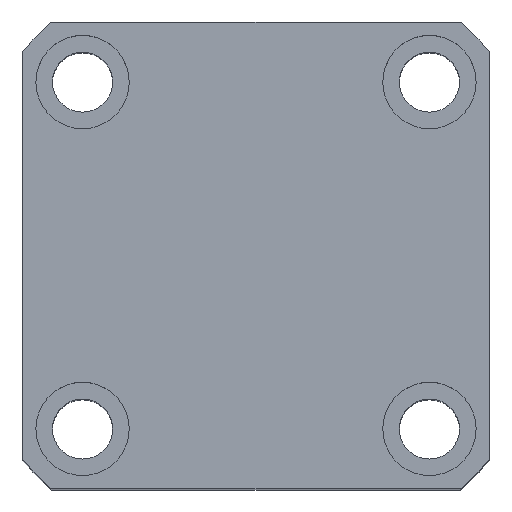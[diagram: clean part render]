
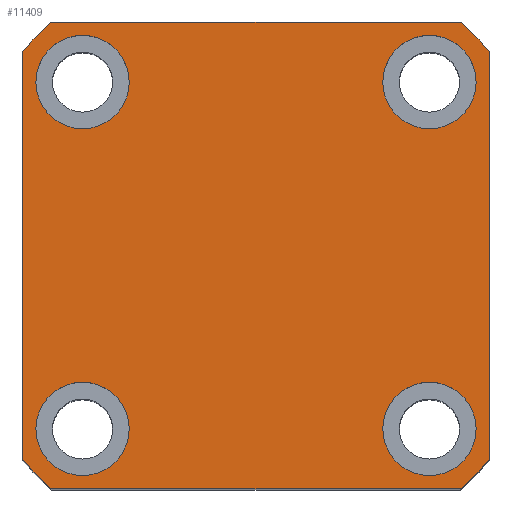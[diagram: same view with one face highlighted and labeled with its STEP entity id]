
A CAD part, top view. The second image highlights one B-rep face of the part: STEP entity #11409.
In plain terms, the highlighted planar face has unit normal (0, 0, 1).
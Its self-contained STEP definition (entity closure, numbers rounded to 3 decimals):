
#31 = DIRECTION ( 'NONE',  ( 1., 0., 0. ) ) ;
#152 = ORIENTED_EDGE ( 'NONE', *, *, #7998, .F. ) ;
#364 = CARTESIAN_POINT ( 'NONE',  ( 35., 30.615, 90. ) ) ;
#431 = VERTEX_POINT ( 'NONE', #13373 ) ;
#439 = CARTESIAN_POINT ( 'NONE',  ( -26., 26., 90. ) ) ;
#510 = CARTESIAN_POINT ( 'NONE',  ( -26., -26., 90. ) ) ;
#739 = VERTEX_POINT ( 'NONE', #5770 ) ;
#836 = ORIENTED_EDGE ( 'NONE', *, *, #1530, .F. ) ;
#930 = CARTESIAN_POINT ( 'NONE',  ( 35., -30.615, 90. ) ) ;
#961 = EDGE_CURVE ( 'NONE', #2623, #1227, #1597, .T. ) ;
#1029 = CIRCLE ( 'NONE', #13535, 7. ) ;
#1069 = CARTESIAN_POINT ( 'NONE',  ( -35., -35., 90. ) ) ;
#1164 = DIRECTION ( 'NONE',  ( 0., 0., 1. ) ) ;
#1224 = DIRECTION ( 'NONE',  ( 0., 0., 1. ) ) ;
#1227 = VERTEX_POINT ( 'NONE', #7278 ) ;
#1239 = EDGE_CURVE ( 'NONE', #12936, #7550, #3042, .T. ) ;
#1245 = EDGE_LOOP ( 'NONE', ( #8301, #7455 ) ) ;
#1429 = CARTESIAN_POINT ( 'NONE',  ( 0., 0., 90. ) ) ;
#1485 = DIRECTION ( 'NONE',  ( 1., 0., 0. ) ) ;
#1530 = EDGE_CURVE ( 'NONE', #10689, #431, #4536, .T. ) ;
#1551 = DIRECTION ( 'NONE',  ( 1., 0., 0. ) ) ;
#1597 = CIRCLE ( 'NONE', #13139, 46.5 ) ;
#1614 = LINE ( 'NONE', #12581, #10454 ) ;
#1801 = CARTESIAN_POINT ( 'NONE',  ( -35., -30.615, 90. ) ) ;
#1992 = FACE_OUTER_BOUND ( 'NONE', #5232, .T. ) ;
#2265 = VERTEX_POINT ( 'NONE', #7891 ) ;
#2329 = AXIS2_PLACEMENT_3D ( 'NONE', #11652, #5385, #12701 ) ;
#2428 = EDGE_CURVE ( 'NONE', #5637, #4405, #12740, .T. ) ;
#2452 = EDGE_CURVE ( 'NONE', #431, #10689, #4398, .T. ) ;
#2458 = EDGE_LOOP ( 'NONE', ( #13288, #11599 ) ) ;
#2484 = DIRECTION ( 'NONE',  ( 1., 0., 0. ) ) ;
#2521 = CARTESIAN_POINT ( 'NONE',  ( 26., 26., 90. ) ) ;
#2623 = VERTEX_POINT ( 'NONE', #364 ) ;
#2662 = VECTOR ( 'NONE', #4632, 1000. ) ;
#2804 = CARTESIAN_POINT ( 'NONE',  ( 26., -26., 90. ) ) ;
#2887 = EDGE_CURVE ( 'NONE', #1227, #2265, #1614, .T. ) ;
#2919 = ORIENTED_EDGE ( 'NONE', *, *, #961, .T. ) ;
#2992 = DIRECTION ( 'NONE',  ( 0., 0., 1. ) ) ;
#3042 = CIRCLE ( 'NONE', #7258, 7. ) ;
#3068 = AXIS2_PLACEMENT_3D ( 'NONE', #9272, #2992, #10328 ) ;
#3203 = CARTESIAN_POINT ( 'NONE',  ( 0., 0., 90. ) ) ;
#3481 = AXIS2_PLACEMENT_3D ( 'NONE', #2521, #9843, #3561 ) ;
#3561 = DIRECTION ( 'NONE',  ( 1., 0., 0. ) ) ;
#3588 = LINE ( 'NONE', #1069, #6047 ) ;
#3626 = CARTESIAN_POINT ( 'NONE',  ( -19., 26., 90. ) ) ;
#3664 = CIRCLE ( 'NONE', #6669, 46.5 ) ;
#3847 = DIRECTION ( 'NONE',  ( 1., 0., 0. ) ) ;
#3906 = CARTESIAN_POINT ( 'NONE',  ( 33., -26., 90. ) ) ;
#3957 = AXIS2_PLACEMENT_3D ( 'NONE', #2804, #10135, #3847 ) ;
#4261 = DIRECTION ( 'NONE',  ( 1., 0., 0. ) ) ;
#4306 = CARTESIAN_POINT ( 'NONE',  ( -33., 26., 90. ) ) ;
#4324 = CARTESIAN_POINT ( 'NONE',  ( 30.615, -35., 90. ) ) ;
#4398 = CIRCLE ( 'NONE', #4427, 7. ) ;
#4405 = VERTEX_POINT ( 'NONE', #930 ) ;
#4427 = AXIS2_PLACEMENT_3D ( 'NONE', #7478, #1224, #8539 ) ;
#4486 = CIRCLE ( 'NONE', #5294, 7. ) ;
#4520 = EDGE_CURVE ( 'NONE', #10801, #5637, #3588, .T. ) ;
#4536 = CIRCLE ( 'NONE', #3481, 7. ) ;
#4587 = VERTEX_POINT ( 'NONE', #1801 ) ;
#4632 = DIRECTION ( 'NONE',  ( 0., 1., 0. ) ) ;
#4771 = EDGE_LOOP ( 'NONE', ( #9190, #152 ) ) ;
#4785 = FACE_BOUND ( 'NONE', #4771, .T. ) ;
#4809 = ORIENTED_EDGE ( 'NONE', *, *, #7018, .T. ) ;
#4834 = EDGE_LOOP ( 'NONE', ( #6557, #836 ) ) ;
#5222 = DIRECTION ( 'NONE',  ( 0., -1., 0. ) ) ;
#5232 = EDGE_LOOP ( 'NONE', ( #9979, #2919, #8705, #4809, #8687, #13328, #9801, #5754 ) ) ;
#5294 = AXIS2_PLACEMENT_3D ( 'NONE', #11851, #5591, #12909 ) ;
#5356 = VERTEX_POINT ( 'NONE', #10217 ) ;
#5385 = DIRECTION ( 'NONE',  ( 0., 0., 1. ) ) ;
#5410 = CARTESIAN_POINT ( 'NONE',  ( 0., 0., 90. ) ) ;
#5591 = DIRECTION ( 'NONE',  ( 0., 0., 1. ) ) ;
#5637 = VERTEX_POINT ( 'NONE', #4324 ) ;
#5754 = ORIENTED_EDGE ( 'NONE', *, *, #2428, .T. ) ;
#5770 = CARTESIAN_POINT ( 'NONE',  ( -35., 30.615, 90. ) ) ;
#5910 = VERTEX_POINT ( 'NONE', #3626 ) ;
#6047 = VECTOR ( 'NONE', #6283, 1000. ) ;
#6143 = AXIS2_PLACEMENT_3D ( 'NONE', #510, #7802, #1551 ) ;
#6274 = DIRECTION ( 'NONE',  ( 0., 0., 1. ) ) ;
#6283 = DIRECTION ( 'NONE',  ( 1., 0., 0. ) ) ;
#6315 = DIRECTION ( 'NONE',  ( -1., 0., 0. ) ) ;
#6365 = CARTESIAN_POINT ( 'NONE',  ( -33., -26., 90. ) ) ;
#6457 = DIRECTION ( 'NONE',  ( 1., 0., 0. ) ) ;
#6557 = ORIENTED_EDGE ( 'NONE', *, *, #2452, .F. ) ;
#6669 = AXIS2_PLACEMENT_3D ( 'NONE', #5410, #12721, #6457 ) ;
#7018 = EDGE_CURVE ( 'NONE', #2265, #739, #3664, .T. ) ;
#7094 = CIRCLE ( 'NONE', #3957, 7. ) ;
#7258 = AXIS2_PLACEMENT_3D ( 'NONE', #12532, #6274, #31 ) ;
#7278 = CARTESIAN_POINT ( 'NONE',  ( 30.615, 35., 90. ) ) ;
#7312 = AXIS2_PLACEMENT_3D ( 'NONE', #3203, #10547, #4261 ) ;
#7455 = ORIENTED_EDGE ( 'NONE', *, *, #9340, .F. ) ;
#7478 = CARTESIAN_POINT ( 'NONE',  ( 26., 26., 90. ) ) ;
#7550 = VERTEX_POINT ( 'NONE', #11419 ) ;
#7564 = FACE_BOUND ( 'NONE', #1245, .T. ) ;
#7672 = EDGE_CURVE ( 'NONE', #7550, #12936, #8639, .T. ) ;
#7737 = DIRECTION ( 'NONE',  ( 0., 0., 1. ) ) ;
#7802 = DIRECTION ( 'NONE',  ( 0., 0., 1. ) ) ;
#7886 = VERTEX_POINT ( 'NONE', #3906 ) ;
#7891 = CARTESIAN_POINT ( 'NONE',  ( -30.615, 35., 90. ) ) ;
#7998 = EDGE_CURVE ( 'NONE', #5356, #7886, #12543, .T. ) ;
#8064 = CARTESIAN_POINT ( 'NONE',  ( 19., 26., 90. ) ) ;
#8226 = LINE ( 'NONE', #11935, #2662 ) ;
#8301 = ORIENTED_EDGE ( 'NONE', *, *, #9209, .F. ) ;
#8474 = DIRECTION ( 'NONE',  ( 1., 0., 0. ) ) ;
#8539 = DIRECTION ( 'NONE',  ( 1., 0., 0. ) ) ;
#8595 = EDGE_CURVE ( 'NONE', #7886, #5356, #7094, .T. ) ;
#8639 = CIRCLE ( 'NONE', #6143, 7. ) ;
#8687 = ORIENTED_EDGE ( 'NONE', *, *, #10998, .T. ) ;
#8705 = ORIENTED_EDGE ( 'NONE', *, *, #2887, .T. ) ;
#8755 = DIRECTION ( 'NONE',  ( 0., 0., 1. ) ) ;
#9190 = ORIENTED_EDGE ( 'NONE', *, *, #8595, .F. ) ;
#9209 = EDGE_CURVE ( 'NONE', #5910, #9932, #4486, .T. ) ;
#9272 = CARTESIAN_POINT ( 'NONE',  ( 26., -26., 90. ) ) ;
#9340 = EDGE_CURVE ( 'NONE', #9932, #5910, #1029, .T. ) ;
#9488 = CARTESIAN_POINT ( 'NONE',  ( 0., 0., 90. ) ) ;
#9534 = CARTESIAN_POINT ( 'NONE',  ( -35., 35., 90. ) ) ;
#9801 = ORIENTED_EDGE ( 'NONE', *, *, #4520, .T. ) ;
#9843 = DIRECTION ( 'NONE',  ( 0., 0., 1. ) ) ;
#9932 = VERTEX_POINT ( 'NONE', #4306 ) ;
#9979 = ORIENTED_EDGE ( 'NONE', *, *, #10177, .T. ) ;
#10135 = DIRECTION ( 'NONE',  ( 0., 0., 1. ) ) ;
#10177 = EDGE_CURVE ( 'NONE', #4405, #2623, #8226, .T. ) ;
#10217 = CARTESIAN_POINT ( 'NONE',  ( 19., -26., 90. ) ) ;
#10328 = DIRECTION ( 'NONE',  ( 1., 0., 0. ) ) ;
#10352 = FACE_BOUND ( 'NONE', #2458, .T. ) ;
#10454 = VECTOR ( 'NONE', #6315, 1000. ) ;
#10547 = DIRECTION ( 'NONE',  ( 0., 0., 1. ) ) ;
#10689 = VERTEX_POINT ( 'NONE', #8064 ) ;
#10699 = FACE_BOUND ( 'NONE', #4834, .T. ) ;
#10801 = VERTEX_POINT ( 'NONE', #11271 ) ;
#10843 = AXIS2_PLACEMENT_3D ( 'NONE', #9488, #1164, #8474 ) ;
#10998 = EDGE_CURVE ( 'NONE', #739, #4587, #12315, .T. ) ;
#11271 = CARTESIAN_POINT ( 'NONE',  ( -30.615, -35., 90. ) ) ;
#11363 = EDGE_CURVE ( 'NONE', #4587, #10801, #13133, .T. ) ;
#11409 = ADVANCED_FACE ( 'NONE', ( #10352, #4785, #10699, #7564, #1992 ), #11579, .T. ) ;
#11419 = CARTESIAN_POINT ( 'NONE',  ( -19., -26., 90. ) ) ;
#11579 = PLANE ( 'NONE',  #10843 ) ;
#11599 = ORIENTED_EDGE ( 'NONE', *, *, #1239, .F. ) ;
#11652 = CARTESIAN_POINT ( 'NONE',  ( 0., 0., 90. ) ) ;
#11851 = CARTESIAN_POINT ( 'NONE',  ( -26., 26., 90. ) ) ;
#11935 = CARTESIAN_POINT ( 'NONE',  ( 35., 35., 90. ) ) ;
#11980 = VECTOR ( 'NONE', #5222, 1000. ) ;
#12315 = LINE ( 'NONE', #9534, #11980 ) ;
#12532 = CARTESIAN_POINT ( 'NONE',  ( -26., -26., 90. ) ) ;
#12543 = CIRCLE ( 'NONE', #3068, 7. ) ;
#12581 = CARTESIAN_POINT ( 'NONE',  ( -35., 35., 90. ) ) ;
#12701 = DIRECTION ( 'NONE',  ( 1., 0., 0. ) ) ;
#12721 = DIRECTION ( 'NONE',  ( 0., 0., 1. ) ) ;
#12740 = CIRCLE ( 'NONE', #2329, 46.5 ) ;
#12909 = DIRECTION ( 'NONE',  ( 1., 0., 0. ) ) ;
#12936 = VERTEX_POINT ( 'NONE', #6365 ) ;
#13133 = CIRCLE ( 'NONE', #7312, 46.5 ) ;
#13139 = AXIS2_PLACEMENT_3D ( 'NONE', #1429, #8755, #2484 ) ;
#13288 = ORIENTED_EDGE ( 'NONE', *, *, #7672, .F. ) ;
#13328 = ORIENTED_EDGE ( 'NONE', *, *, #11363, .T. ) ;
#13373 = CARTESIAN_POINT ( 'NONE',  ( 33., 26., 90. ) ) ;
#13535 = AXIS2_PLACEMENT_3D ( 'NONE', #439, #7737, #1485 ) ;
